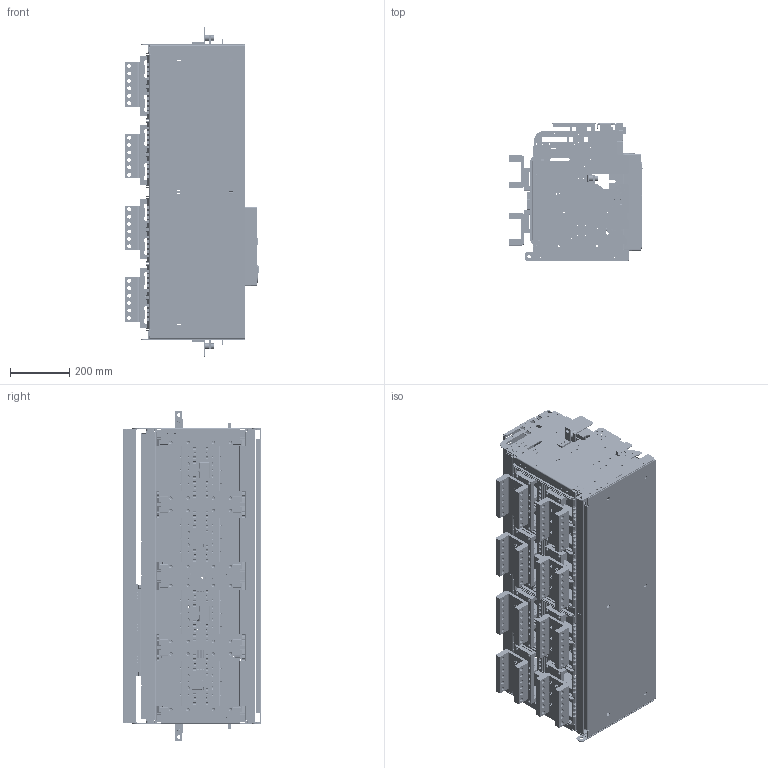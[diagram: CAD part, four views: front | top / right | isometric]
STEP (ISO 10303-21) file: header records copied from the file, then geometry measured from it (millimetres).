
FILE_DESCRIPTION((''),'2;1');
FILE_NAME('HG_29_D504_634H_ASM_ASM','2019-03-27T',('HHI'),(''),'PRO/ENGINEER BY PARAMETRIC TECHNOLOGY CORPORATION, 2012453','PRO/ENGINEER BY PARAMETRIC TECHNOLOGY CORPORATION, 2012453','');
FILE_SCHEMA(('CONFIG_CONTROL_DESIGN'));
Products named in the file (59): 3AT-03371_7; PRT0565; PRT0566; MAIN_SC-DR-FRAME_L_55_ASM_ASM; 1AT-00887S02_ASM_8_ASM_ASM; 3AT-04943_7; 3AT-03372_7; PRT0567; PRT0568; MAIN_SC-DR-FRAME_R_54_ASM_ASM; 1AT-00888S02_ASM_8_ASM_ASM; 3AT-04945_7; CONTROL_JACK_FOR_CRADLE_7; 9239000363_ASM_8_ASM_ASM; 1AT-00880S08_ASM_8_ASM_ASM; 3AT-05064_7; 4AT-06870_7; 3AT-05065_ASM_7_ASM_ASM; 1AT-00752_AF0_7; ACB_HEX_NUT_M6_7; 1AT-01051_ASM_7_ASM_ASM; 3AT-05066_7; 3AT-05067_ASM_7_ASM_ASM; 3AT-05062_7; 3AT-05305_5; 3AT-05294_ASM_5_ASM_ASM; 3AT-05331S02_2; 3AT-05331S01_1; PRT0569; PRT0571; PRT0572; PRT0573; PRT0574; ASM0163_ASM; PRT0575; PRT0576; PRT0577; ASM0164_ASM; PRT0580; ASM0162_ASM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
Assembly tree (156 placements, depth 6):
  HG_29_D504_634H_ASM_ASM
    D504_634H_ASM_4_ASM_ASM
      1AT-00887S02_ASM_8_ASM_ASM
        3AT-03371_7
        MAIN_SC-DR-FRAME_L_55_ASM_ASM
          PRT0565
          PRT0566
      3AT-04943_7
      1AT-00888S02_ASM_8_ASM_ASM
        3AT-03372_7
        MAIN_SC-DR-FRAME_R_54_ASM_ASM
          PRT0567
          PRT0568
      1AT-00880S08_ASM_8_ASM_ASM
        3AT-04945_7
        9239000363_ASM_8_ASM_ASM
          CONTROL_JACK_FOR_CRADLE_7
      3AT-05065_ASM_7_ASM_ASM
        3AT-05064_7
        4AT-06870_7  x10
      1AT-01051_ASM_7_ASM_ASM  x2
        1AT-00752_AF0_7
        ACB_HEX_NUT_M6_7
      3AT-05067_ASM_7_ASM_ASM
        3AT-05066_7
        4AT-06870_7  x8
      3AT-05062_7  x32
      3AT-05294_ASM_5_ASM_ASM  x8
        3AT-05305_5
      3AT-05331S02_2  x4
      3AT-05331S01_1  x4
      ASM0161_ASM
        ASM0162_ASM
          PRT0569
          ASM0163_ASM
            PRT0571
            PRT0572
            PRT0573
            PRT0574
          ASM0164_ASM
            PRT0575
            PRT0576
            PRT0577
          PRT0580
        PRT0581  x2
        PRT0582
      ASM0165_ASM
        PRT0583
        PRT0584
        PRT0585
        PRT0586
      ASM0166_ASM
        PRT0587
        PRT0588
        FIX_BLOCK_CRADLE_6
        BOLT_5
      PRT0589
    HG_FRONT_COVER_40
    4AT-06477S03
    4AT-06477S04
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Bounding box: 453.03 x 466.35 x 1108.2 mm (x, y, z)
Volume: 16877365.8 mm3; surface area: 7988240.3 mm2
Topology: 175 solids, 175 shells, 21871 faces, 63360 edges, 41341 vertices
Faces by surface type: plane 15164, cylinder 5370, cone 580, torus 269, sphere 240, extrusion 141, bspline 107
Entity records: 559596 total; most frequent: CARTESIAN_POINT 106258, ORIENTED_EDGE 97414, DIRECTION 89661, EDGE_CURVE 48707, VECTOR 39651, LINE 39510, VERTEX_POINT 31899, AXIS2_PLACEMENT_3D 25005
